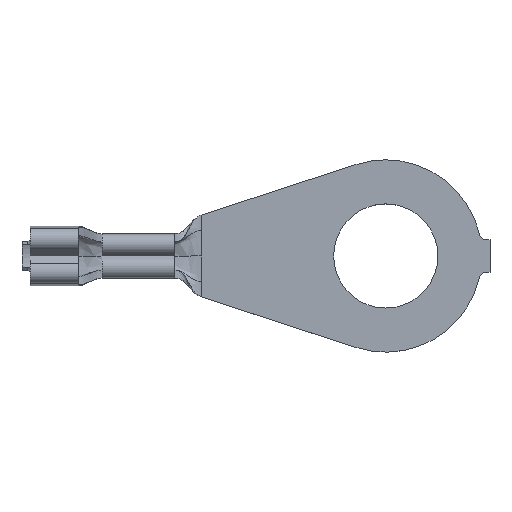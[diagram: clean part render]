
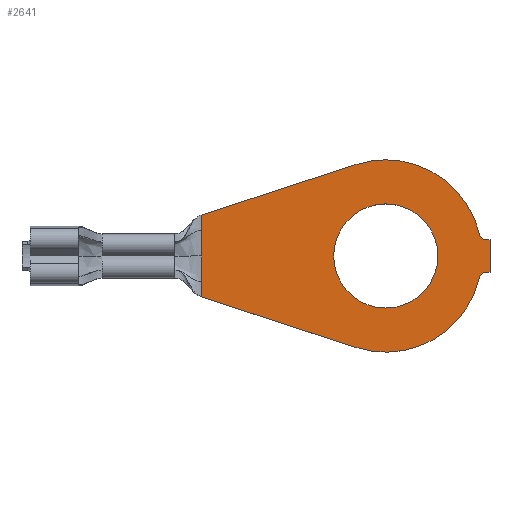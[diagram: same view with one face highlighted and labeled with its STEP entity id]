
A CAD part, top view. The second image highlights one B-rep face of the part: STEP entity #2641.
In plain terms, the highlighted planar face has unit normal (0, 0, 1).
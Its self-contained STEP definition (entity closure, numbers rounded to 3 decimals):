
#2544=AXIS2_PLACEMENT_3D('Plane Axis2P3D',#2541,#2542,#2543) ;
#2548=AXIS2_PLACEMENT_3D('Circle Axis2P3D',#2546,#2547,$) ;
#2557=AXIS2_PLACEMENT_3D('Circle Axis2P3D',#2555,#2556,$) ;
#2564=AXIS2_PLACEMENT_3D('Circle Axis2P3D',#2562,#2563,$) ;
#2576=AXIS2_PLACEMENT_3D('Circle Axis2P3D',#2574,#2575,$) ;
#2583=AXIS2_PLACEMENT_3D('Circle Axis2P3D',#2581,#2582,$) ;
#2625=AXIS2_PLACEMENT_3D('Circle Axis2P3D',#2623,#2624,$) ;
#2634=AXIS2_PLACEMENT_3D('Circle Axis2P3D',#2632,#2633,$) ;
#1857=CARTESIAN_POINT('Vertex',(-7.8,-2.555,0.6)) ;
#1909=CARTESIAN_POINT('Vertex',(-7.8,-1.588,0.6)) ;
#1921=CARTESIAN_POINT('Control Point',(-7.8,-1.588,0.6)) ;
#1922=CARTESIAN_POINT('Control Point',(-7.8,-1.911,0.6)) ;
#1923=CARTESIAN_POINT('Control Point',(-7.8,-2.233,0.6)) ;
#1924=CARTESIAN_POINT('Control Point',(-7.8,-2.555,0.6)) ;
#2008=CARTESIAN_POINT('Control Point',(-7.8,0.,0.6)) ;
#2009=CARTESIAN_POINT('Control Point',(-7.8,-0.159,0.6)) ;
#2010=CARTESIAN_POINT('Control Point',(-7.8,-0.318,0.6)) ;
#2011=CARTESIAN_POINT('Control Point',(-7.8,-0.477,0.6)) ;
#2012=CARTESIAN_POINT('Control Point',(-7.8,-0.715,0.6)) ;
#2013=CARTESIAN_POINT('Control Point',(-7.8,-0.953,0.6)) ;
#2014=CARTESIAN_POINT('Control Point',(-7.8,-1.032,0.6)) ;
#2015=CARTESIAN_POINT('Control Point',(-7.8,-1.191,0.6)) ;
#2016=CARTESIAN_POINT('Control Point',(-7.8,-1.35,0.6)) ;
#2017=CARTESIAN_POINT('Control Point',(-7.8,-1.43,0.6)) ;
#2018=CARTESIAN_POINT('Control Point',(-7.8,-1.509,0.6)) ;
#2019=CARTESIAN_POINT('Control Point',(-7.8,-1.588,0.6)) ;
#2020=CARTESIAN_POINT('Vertex',(-7.8,0.,0.6)) ;
#2113=CARTESIAN_POINT('Control Point',(-7.8,0.,0.6)) ;
#2114=CARTESIAN_POINT('Control Point',(-7.8,0.159,0.6)) ;
#2115=CARTESIAN_POINT('Control Point',(-7.8,0.318,0.6)) ;
#2116=CARTESIAN_POINT('Control Point',(-7.8,0.477,0.6)) ;
#2117=CARTESIAN_POINT('Control Point',(-7.8,0.715,0.6)) ;
#2118=CARTESIAN_POINT('Control Point',(-7.8,0.953,0.6)) ;
#2119=CARTESIAN_POINT('Control Point',(-7.8,1.032,0.6)) ;
#2120=CARTESIAN_POINT('Control Point',(-7.8,1.191,0.6)) ;
#2121=CARTESIAN_POINT('Control Point',(-7.8,1.35,0.6)) ;
#2122=CARTESIAN_POINT('Control Point',(-7.8,1.43,0.6)) ;
#2123=CARTESIAN_POINT('Control Point',(-7.8,1.509,0.6)) ;
#2124=CARTESIAN_POINT('Control Point',(-7.8,1.588,0.6)) ;
#2125=CARTESIAN_POINT('Vertex',(-7.8,1.588,0.6)) ;
#2180=CARTESIAN_POINT('Control Point',(-7.8,1.588,0.6)) ;
#2181=CARTESIAN_POINT('Control Point',(-7.8,1.911,0.6)) ;
#2182=CARTESIAN_POINT('Control Point',(-7.8,2.233,0.6)) ;
#2183=CARTESIAN_POINT('Control Point',(-7.8,2.555,0.6)) ;
#2184=CARTESIAN_POINT('Vertex',(-7.8,2.555,0.6)) ;
#2526=CARTESIAN_POINT('Vertex',(1.837,-5.703,0.6)) ;
#2529=CARTESIAN_POINT('Line Origine',(-2.982,-4.129,0.6)) ;
#2541=CARTESIAN_POINT('Axis2P3D Location',(0.,0.,0.6)) ;
#2546=CARTESIAN_POINT('Axis2P3D Location',(9.985,1.45,0.6)) ;
#2550=CARTESIAN_POINT('Vertex',(9.985,1.,0.6)) ;
#2552=CARTESIAN_POINT('Vertex',(9.546,1.349,0.6)) ;
#2555=CARTESIAN_POINT('Axis2P3D Location',(3.7,0.,0.6)) ;
#2559=CARTESIAN_POINT('Vertex',(5.563,5.703,0.6)) ;
#2562=CARTESIAN_POINT('Axis2P3D Location',(3.7,0.,0.6)) ;
#2566=CARTESIAN_POINT('Vertex',(1.837,5.703,0.6)) ;
#2569=CARTESIAN_POINT('Line Origine',(-2.982,4.129,0.6)) ;
#2574=CARTESIAN_POINT('Axis2P3D Location',(3.7,0.,0.6)) ;
#2578=CARTESIAN_POINT('Vertex',(9.546,-1.349,0.6)) ;
#2581=CARTESIAN_POINT('Axis2P3D Location',(9.985,-1.45,0.6)) ;
#2585=CARTESIAN_POINT('Vertex',(9.985,-1.,0.6)) ;
#2588=CARTESIAN_POINT('Line Origine',(10.092,-1.,0.6)) ;
#2592=CARTESIAN_POINT('Vertex',(10.2,-1.,0.6)) ;
#2595=CARTESIAN_POINT('Line Origine',(10.2,0.,0.6)) ;
#2599=CARTESIAN_POINT('Vertex',(10.2,1.,0.6)) ;
#2602=CARTESIAN_POINT('Line Origine',(10.092,1.,0.6)) ;
#2623=CARTESIAN_POINT('Axis2P3D Location',(3.7,0.,0.6)) ;
#2627=CARTESIAN_POINT('Vertex',(0.45,0.,0.6)) ;
#2629=CARTESIAN_POINT('Vertex',(6.95,0.,0.6)) ;
#2632=CARTESIAN_POINT('Axis2P3D Location',(3.7,0.,0.6)) ;
#2530=DIRECTION('Vector Direction',(-0.951,0.311,0.)) ;
#2542=DIRECTION('Axis2P3D Direction',(0.,0.,1.)) ;
#2543=DIRECTION('Axis2P3D XDirection',(1.,0.,0.)) ;
#2547=DIRECTION('Axis2P3D Direction',(0.,0.,1.)) ;
#2556=DIRECTION('Axis2P3D Direction',(0.,0.,1.)) ;
#2563=DIRECTION('Axis2P3D Direction',(0.,0.,1.)) ;
#2570=DIRECTION('Vector Direction',(-0.951,-0.311,0.)) ;
#2575=DIRECTION('Axis2P3D Direction',(0.,0.,1.)) ;
#2582=DIRECTION('Axis2P3D Direction',(0.,0.,1.)) ;
#2589=DIRECTION('Vector Direction',(-1.,0.,0.)) ;
#2596=DIRECTION('Vector Direction',(0.,1.,0.)) ;
#2603=DIRECTION('Vector Direction',(1.,0.,0.)) ;
#2624=DIRECTION('Axis2P3D Direction',(0.,0.,1.)) ;
#2633=DIRECTION('Axis2P3D Direction',(0.,0.,1.)) ;
#2531=VECTOR('Line Direction',#2530,1.) ;
#2571=VECTOR('Line Direction',#2570,1.) ;
#2590=VECTOR('Line Direction',#2589,1.) ;
#2597=VECTOR('Line Direction',#2596,1.) ;
#2604=VECTOR('Line Direction',#2603,1.) ;
#2608=ORIENTED_EDGE('',*,*,#2554,.T.) ;
#2609=ORIENTED_EDGE('',*,*,#2561,.T.) ;
#2610=ORIENTED_EDGE('',*,*,#2568,.T.) ;
#2611=ORIENTED_EDGE('',*,*,#2573,.T.) ;
#2612=ORIENTED_EDGE('',*,*,#2186,.F.) ;
#2613=ORIENTED_EDGE('',*,*,#2127,.F.) ;
#2614=ORIENTED_EDGE('',*,*,#2022,.T.) ;
#2615=ORIENTED_EDGE('',*,*,#1925,.T.) ;
#2616=ORIENTED_EDGE('',*,*,#2533,.T.) ;
#2617=ORIENTED_EDGE('',*,*,#2580,.T.) ;
#2618=ORIENTED_EDGE('',*,*,#2587,.T.) ;
#2619=ORIENTED_EDGE('',*,*,#2594,.T.) ;
#2620=ORIENTED_EDGE('',*,*,#2601,.T.) ;
#2621=ORIENTED_EDGE('',*,*,#2606,.T.) ;
#2638=ORIENTED_EDGE('',*,*,#2631,.F.) ;
#2639=ORIENTED_EDGE('',*,*,#2636,.F.) ;
#2640=FACE_BOUND('',#2637,.T.) ;
#2641=ADVANCED_FACE('Hauptk\X2\00F6\X0\rper',(#2622,#2640),#2545,.T.) ;
#1920=B_SPLINE_CURVE_WITH_KNOTS('',3,(#1921,#1922,#1923,#1924),.UNSPECIFIED.,.F.,.U.,(4,4),(0.,0.596),.UNSPECIFIED.) ;
#2007=B_SPLINE_CURVE_WITH_KNOTS('',5,(#2008,#2009,#2010,#2011,#2012,#2013,#2014,#2015,#2016,#2017,#2018,#2019),.UNSPECIFIED.,.F.,.U.,(6,3,3,6),(0.,0.659,0.988,1.317),.UNSPECIFIED.) ;
#2112=B_SPLINE_CURVE_WITH_KNOTS('',5,(#2113,#2114,#2115,#2116,#2117,#2118,#2119,#2120,#2121,#2122,#2123,#2124),.UNSPECIFIED.,.F.,.U.,(6,3,3,6),(0.,0.659,0.988,1.317),.UNSPECIFIED.) ;
#2179=B_SPLINE_CURVE_WITH_KNOTS('',3,(#2180,#2181,#2182,#2183),.UNSPECIFIED.,.F.,.U.,(4,4),(0.,0.596),.UNSPECIFIED.) ;
#2549=CIRCLE('generated circle',#2548,0.45) ;
#2558=CIRCLE('generated circle',#2557,6.) ;
#2565=CIRCLE('generated circle',#2564,6.) ;
#2577=CIRCLE('generated circle',#2576,6.) ;
#2584=CIRCLE('generated circle',#2583,0.45) ;
#2626=CIRCLE('generated circle',#2625,3.25) ;
#2635=CIRCLE('generated circle',#2634,3.25) ;
#1925=EDGE_CURVE('',#1910,#1858,#1920,.T.) ;
#2022=EDGE_CURVE('',#2021,#1910,#2007,.T.) ;
#2127=EDGE_CURVE('',#2021,#2126,#2112,.T.) ;
#2186=EDGE_CURVE('',#2126,#2185,#2179,.T.) ;
#2533=EDGE_CURVE('',#1858,#2527,#2532,.F.) ;
#2554=EDGE_CURVE('',#2551,#2553,#2549,.F.) ;
#2561=EDGE_CURVE('',#2553,#2560,#2558,.T.) ;
#2568=EDGE_CURVE('',#2560,#2567,#2565,.T.) ;
#2573=EDGE_CURVE('',#2567,#2185,#2572,.T.) ;
#2580=EDGE_CURVE('',#2527,#2579,#2577,.T.) ;
#2587=EDGE_CURVE('',#2579,#2586,#2584,.F.) ;
#2594=EDGE_CURVE('',#2586,#2593,#2591,.F.) ;
#2601=EDGE_CURVE('',#2593,#2600,#2598,.T.) ;
#2606=EDGE_CURVE('',#2600,#2551,#2605,.F.) ;
#2631=EDGE_CURVE('',#2628,#2630,#2626,.T.) ;
#2636=EDGE_CURVE('',#2630,#2628,#2635,.T.) ;
#2607=EDGE_LOOP('',(#2608,#2609,#2610,#2611,#2612,#2613,#2614,#2615,#2616,#2617,#2618,#2619,#2620,#2621)) ;
#2637=EDGE_LOOP('',(#2638,#2639)) ;
#2622=FACE_OUTER_BOUND('',#2607,.T.) ;
#2532=LINE('Line',#2529,#2531) ;
#2572=LINE('Line',#2569,#2571) ;
#2591=LINE('Line',#2588,#2590) ;
#2598=LINE('Line',#2595,#2597) ;
#2605=LINE('Line',#2602,#2604) ;
#2545=PLANE('',#2544) ;
#1858=VERTEX_POINT('',#1857) ;
#1910=VERTEX_POINT('',#1909) ;
#2021=VERTEX_POINT('',#2020) ;
#2126=VERTEX_POINT('',#2125) ;
#2185=VERTEX_POINT('',#2184) ;
#2527=VERTEX_POINT('',#2526) ;
#2551=VERTEX_POINT('',#2550) ;
#2553=VERTEX_POINT('',#2552) ;
#2560=VERTEX_POINT('',#2559) ;
#2567=VERTEX_POINT('',#2566) ;
#2579=VERTEX_POINT('',#2578) ;
#2586=VERTEX_POINT('',#2585) ;
#2593=VERTEX_POINT('',#2592) ;
#2600=VERTEX_POINT('',#2599) ;
#2628=VERTEX_POINT('',#2627) ;
#2630=VERTEX_POINT('',#2629) ;
